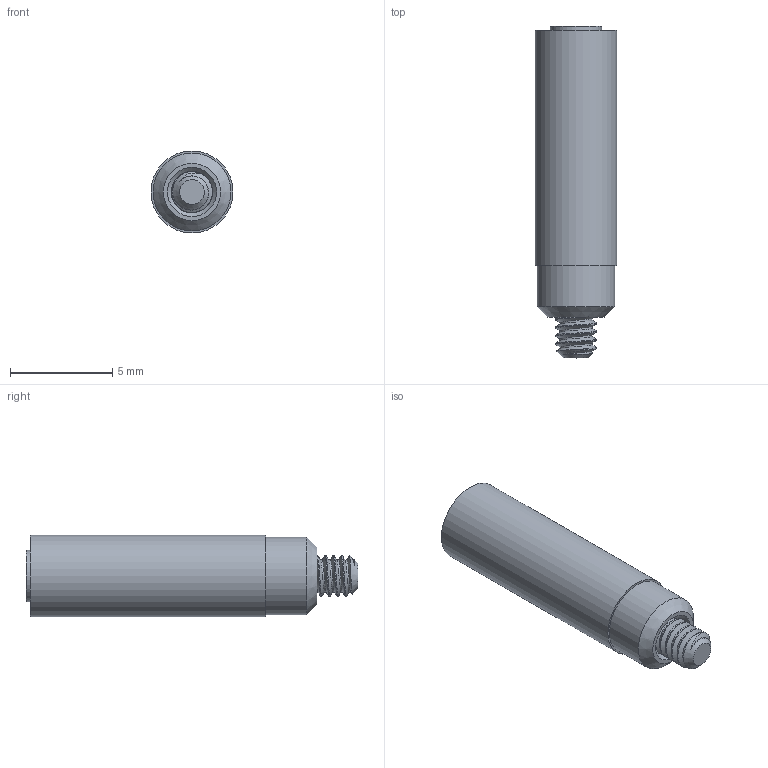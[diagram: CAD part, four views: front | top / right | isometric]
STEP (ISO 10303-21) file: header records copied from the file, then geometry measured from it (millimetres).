
FILE_DESCRIPTION (( 'STEP AP214' ), '1' );
FILE_NAME ('DAF-4.STEP', '2018-10-09T17:57:57', ( '' ), ( '' ), 'SwSTEP 2.0', 'SolidWorks 2017', '' );
FILE_SCHEMA (( 'AUTOMOTIVE_DESIGN' ));
Length unit declared in the file: millimetre
Products named in the file (1): DAF-4
Bounding box: 4 x 16.2 x 4 mm (x, y, z)
Volume: 174.4 mm3; surface area: 282.8 mm2
Topology: 2 solids, 2 shells, 104 faces, 267 edges, 178 vertices
Faces by surface type: plane 53, cylinder 40, bspline 6, cone 5
Full cylindrical faces by diameter (mm): 1.6 x6, 2.5 x1, 3.8 x1, 4 x1
Entity records: 7792 total; most frequent: CARTESIAN_POINT 4671, ORIENTED_EDGE 466, DIRECTION 340, EDGE_CURVE 233, VERTEX_POINT 159, LINE 128, VECTOR 128, EDGE_LOOP 116
